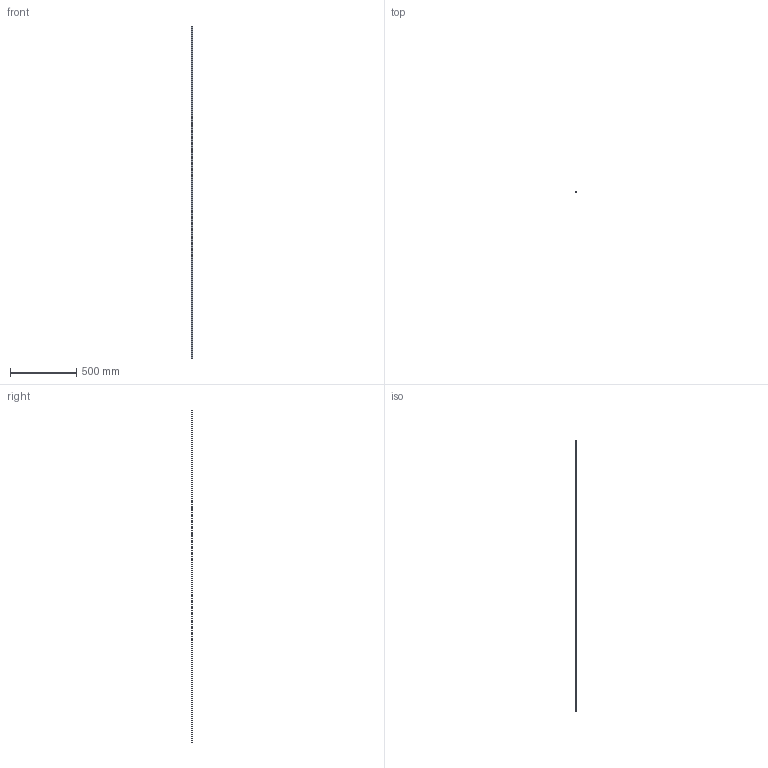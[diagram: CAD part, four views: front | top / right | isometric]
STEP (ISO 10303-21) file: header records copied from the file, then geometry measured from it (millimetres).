
FILE_DESCRIPTION(/* description */ (''),/* implementation_level */ '2;1');
FILE_NAME(/* name */ '1778298 Alu-Grundprofil 10x2mm L=6M_sldprt.stp',/* time_stamp */ '2019-06-12T06:40:49+02:00',/* author */ (''),/* organization */ (''),/* preprocessor_version */ 'ST-DEVELOPER v16.7',/* originating_system */ 'SIEMENS PLM Software NX 12.0',/* authorisation */ '');
FILE_SCHEMA (('AUTOMOTIVE_DESIGN { 1 0 10303 214 3 1 1 1 }'));
Length unit declared in the file: millimetre
Products named in the file (1): p.sc256824D8ywo7
Bounding box: 10 x 2 x 2500 mm (x, y, z)
Volume: 50000 mm3; surface area: 60040 mm2
Topology: 1 solids, 1 shells, 6 faces, 12 edges, 8 vertices
Faces by surface type: plane 6
Entity records: 188 total; most frequent: CARTESIAN_POINT 27, DIRECTION 26, ORIENTED_EDGE 24, EDGE_CURVE 12, LINE 12, VECTOR 12, VERTEX_POINT 8, AXIS2_PLACEMENT_3D 7
